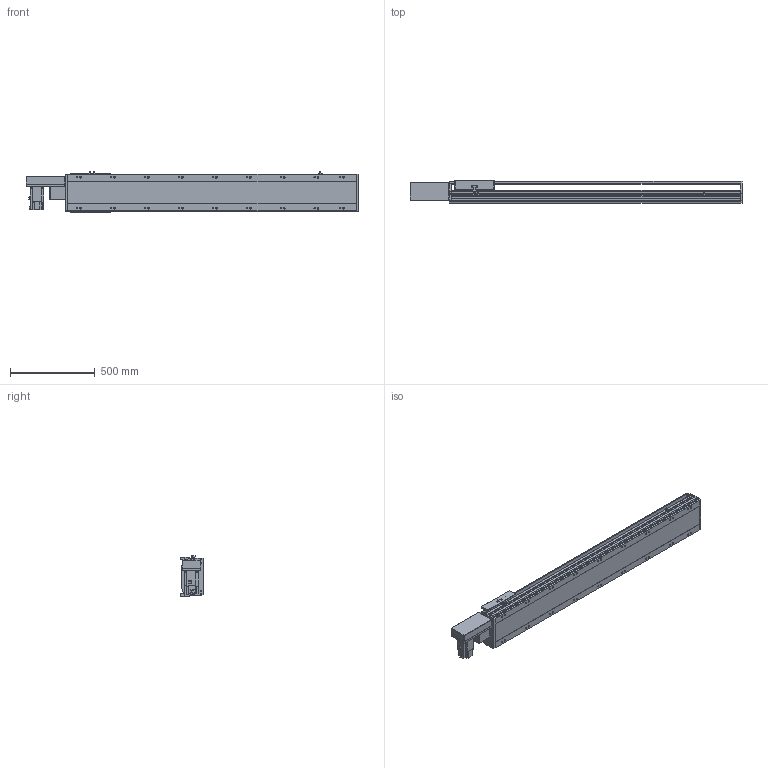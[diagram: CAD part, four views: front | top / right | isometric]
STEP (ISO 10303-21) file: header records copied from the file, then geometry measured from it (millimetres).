
FILE_DESCRIPTION(/* description */ ('STEP AP214'),/* implementation_level */ '2;1');
FILE_NAME(/* name */ 'PBS220-P40-S1350-R-T75-C1-N(0)',/* time_stamp */ '2022-06-11T10:01:20+02:00',/* author */ ('License CC BY-ND 4.0'),/* organization */ ('CADENAS'),/* preprocessor_version */ 'ST-DEVELOPER v18.102',/* originating_system */ 'PARTsolutions',/* authorisation */ ' ');
FILE_SCHEMA (('AUTOMOTIVE_DESIGN {1 0 10303 214 3 1 1}'));
Length unit declared in the file: millimetre
Products named in the file (7): PBS220-P40-S1350-R-T75-C1-N(0); PBS220_sensor; PBS220_plant; PBS220_sliser; T75-p1; PBS220T-R_motors; PBS220-S1350()_body
Assembly tree (8 placements, depth 2):
  PBS220-P40-S1350-R-T75-C1-N(0)
    PBS220_sensor  x3
    PBS220_plant
    PBS220_sliser
    T75-p1
    PBS220T-R_motors
    PBS220-S1350()_body
Bounding box: 1956 x 134 x 238.5 mm (x, y, z)
Volume: 26172397 mm3; surface area: 2500973.8 mm2
Topology: 8 solids, 8 shells, 926 faces, 2424 edges, 1576 vertices
Faces by surface type: plane 602, cylinder 282, cone 42
Full cylindrical faces by diameter (mm): 2.013 x4, 4.5 x14, 4.917 x4, 6 x7, 6.647 x8, 8 x10, 8.376 x18, 8.5 x18, 10 x6, 14 x18, 38 x2, 40 x1, 70 x1
Entity records: 25941 total; most frequent: CARTESIAN_POINT 4558, DIRECTION 4509, ORIENTED_EDGE 4142, EDGE_CURVE 2071, AXIS2_PLACEMENT_3D 1581, VERTEX_POINT 1432, LINE 1347, VECTOR 1347
